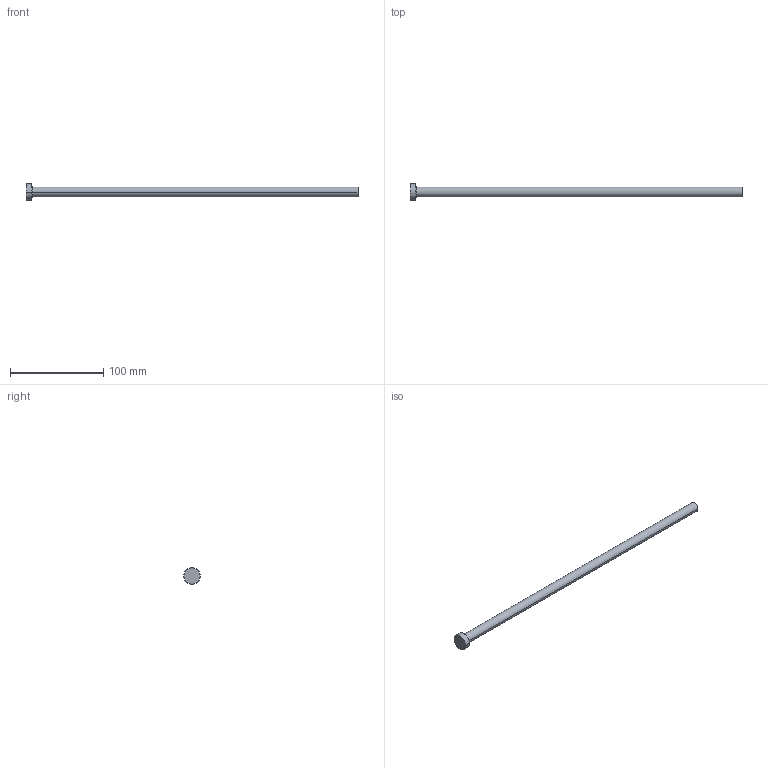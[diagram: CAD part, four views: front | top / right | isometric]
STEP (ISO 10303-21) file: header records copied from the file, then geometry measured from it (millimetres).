
FILE_DESCRIPTION (( 'STEP AP214' ), '1' );
FILE_NAME ('P28-14.STEP', '2020-03-12T10:13:57', ( '' ), ( '' ), 'SwSTEP 2.0', 'SolidWorks 2018', '' );
FILE_SCHEMA (( 'AUTOMOTIVE_DESIGN' ));
Length unit declared in the file: inch
Products named in the file (1): P28-14
Bounding box: 355.6 x 17.46 x 17.46 mm (x, y, z)
Volume: 32976.2 mm3; surface area: 12558.9 mm2
Topology: 1 solids, 1 shells, 13 faces, 24 edges, 14 vertices
Faces by surface type: cone 4, cylinder 4, plane 3, torus 2
Entity records: 366 total; most frequent: DIRECTION 68, CARTESIAN_POINT 52, ORIENTED_EDGE 48, AXIS2_PLACEMENT_3D 30, EDGE_CURVE 24, CIRCLE 16, EDGE_LOOP 14, VERTEX_POINT 14
